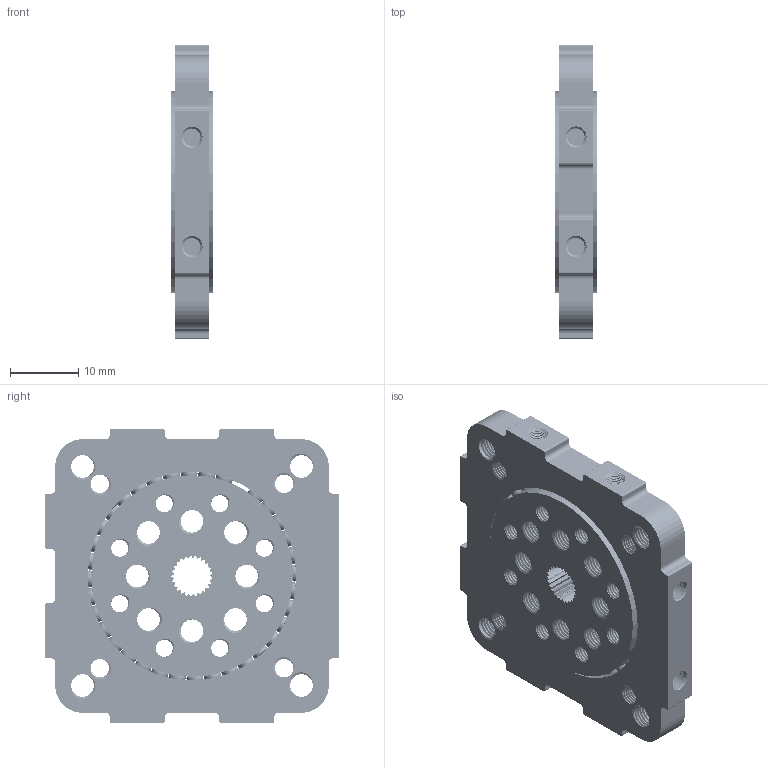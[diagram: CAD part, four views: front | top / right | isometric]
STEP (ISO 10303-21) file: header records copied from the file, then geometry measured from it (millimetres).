
FILE_DESCRIPTION( ('This file contains a STEP AP42 implementation' ,'as created by ZW3D STEP Interface translator.') ,'2;1' );
FILE_NAME( 'BL-EverythingBearing.stp' ,'25 222.1536 2', (''), ('ZWCAD Software Co.'), 'Version 1.0', 'ZW3D to STEP translator', '' );
FILE_SCHEMA(('AUTOMOTIVE_DESIGN { 1 0 10303 214 1 1 1 1 }'));
Length unit declared in the file: millimetre
Products named in the file (6): 0; BL-EverythingBearing; BL-EBInnerRing; BL-EBOuterRing; BL-TSeal; BB2.5
Assembly tree (38 placements, depth 2):
  0
  BL-EverythingBearing
    BL-EBInnerRing
    BL-EBOuterRing
    BL-TSeal
    BB2.5  x35
Bounding box: 6 x 43 x 43 mm (x, y, z)
Volume: 7410.4 mm3; surface area: 9171.5 mm2
Topology: 38 solids, 38 shells, 774 faces, 2396 edges, 1667 vertices
Faces by surface type: cylinder 510, plane 140, bspline 74, sphere 35, cone 12, torus 3
Full cylindrical faces by diameter (mm): 2.5 x222, 2.705 x46, 3.3 x128, 29.5 x2, 30.5 x2
Entity records: 47755 total; most frequent: CARTESIAN_POINT 29745, ORIENTED_EDGE 4440, DIRECTION 2778, EDGE_CURVE 2218, VERTEX_POINT 1459, AXIS2_PLACEMENT_3D 948, VECTOR 882, LINE 882
